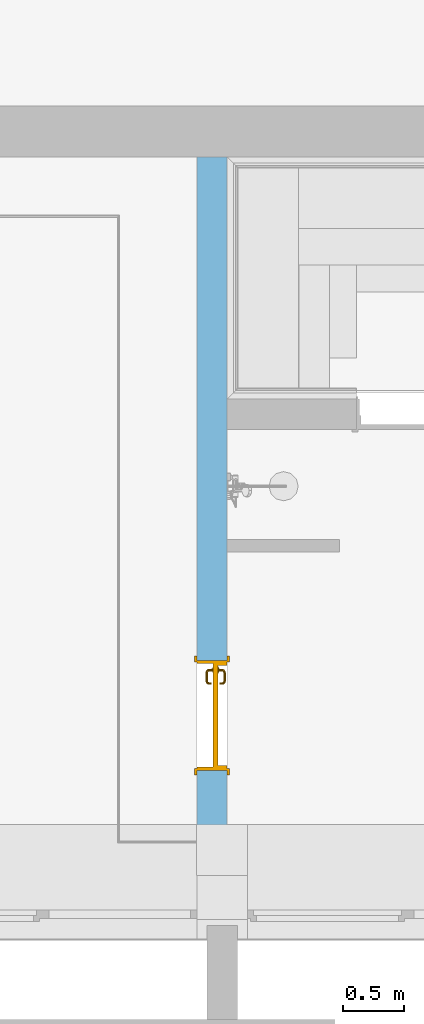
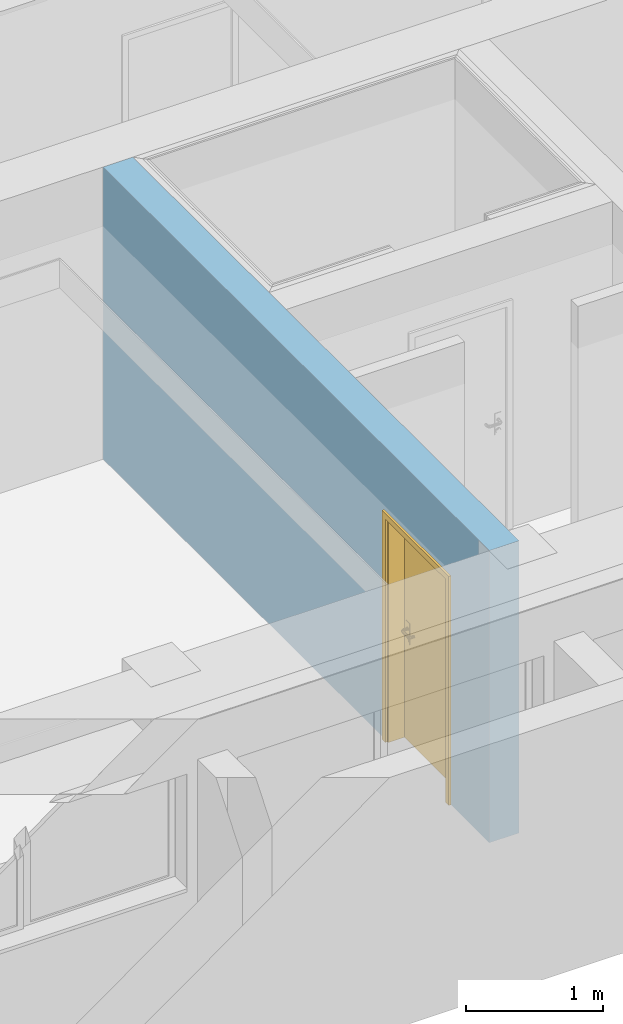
# One storey, part 40 of 127: 1 door, 1 opening, plus 1 element that does not belong to this part.
"""IFC2X3 building model written with IfcOpenShell, lengths in millimetres."""

from ifc_helpers import new_model, entity, si_unit, converted_unit, derived_unit, money_unit, direction, frame, origin_with_axes, origin_2d_with_axis, place, context, subcontext, project, spatial, polyline, rectangle, outline, extrude, open_shell, faceted_brep, surface_model, material, layer, layer_set, layer_usage, type_object, element, fill, save


model = new_model("IFC2X3")

# Units and contexts
model_context = context("Model", 3, precision=1e-05, world=origin_with_axes(), true_north=direction((0.0, 1.0)))
body_context = subcontext(model_context, "Body", "Model", "MODEL_VIEW")
ifc_project = project(units=[si_unit("LENGTHUNIT", "METRE", prefix="MILLI"), si_unit("AREAUNIT", "SQUARE_METRE"), si_unit("VOLUMEUNIT", "CUBIC_METRE"), converted_unit("PLANEANGLEUNIT", "DEGREE", entity("IfcPlaneAngleMeasure", 0.0174532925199), si_unit("PLANEANGLEUNIT", "RADIAN"), dimensions=[0, 0, 0, 0, 0, 0, 0]), si_unit("SOLIDANGLEUNIT", "STERADIAN"), money_unit("EUR"), converted_unit("TIMEUNIT", "Year", entity("IfcTimeMeasure", 31556926.0), si_unit("TIMEUNIT", "SECOND"), dimensions=[0, 0, 1, 0, 0, 0, 0]), si_unit("MASSUNIT", "GRAM", prefix="KILO"), si_unit("THERMODYNAMICTEMPERATUREUNIT", "DEGREE_CELSIUS"), si_unit("LUMINOUSINTENSITYUNIT", "LUMEN"), si_unit("ENERGYUNIT", "JOULE", prefix="MEGA"), derived_unit("THERMALCONDUCTANCEUNIT", [(si_unit("POWERUNIT", "WATT"), 1), (si_unit("LENGTHUNIT", "METRE"), -1), (si_unit("THERMODYNAMICTEMPERATUREUNIT", "KELVIN"), -1)]), derived_unit("SPECIFICHEATCAPACITYUNIT", [(si_unit("ENERGYUNIT", "JOULE"), 1), (si_unit("MASSUNIT", "GRAM", prefix="KILO"), -1), (si_unit("THERMODYNAMICTEMPERATUREUNIT", "KELVIN"), -1)]), derived_unit("MASSDENSITYUNIT", [(si_unit("MASSUNIT", "GRAM", prefix="KILO"), 1), (si_unit("VOLUMEUNIT", "CUBIC_METRE"), -1)])], contexts=[model_context])

# Site, building, storey
site_placement = place(None, origin_with_axes())
site = spatial("IfcSite", under=ifc_project, at=site_placement, Name="Site", CompositionType="ELEMENT")
building_placement = place(site_placement, origin_with_axes())
building = spatial("IfcBuilding", under=site, at=building_placement, Name="Building", CompositionType="ELEMENT")
storey_placement = place(building_placement, origin_with_axes())
storey = spatial("IfcBuildingStorey", under=building, at=storey_placement, Name="1 KORRUS", CompositionType="ELEMENT", Elevation=0.0)

# Wall, opening, door
ifc_material = material(Name="Kivi -Ol.Olev Konstruktsioon")
ifc_layer = layer(ifc_material, 250.0, ventilated="UNKNOWN")
ifc_layer_set = layer_set([ifc_layer], Name="ol.olev ss 250")
ifc_layer_usage = layer_usage(ifc_layer_set, "AXIS2", "POSITIVE", 0.0)
wall_type = type_object("IfcWallType", Name="SW - 036", PredefinedType="NOTDEFINED")
wall_placement = place(storey_placement, frame((24738.1366535, 65636.3690561, 0.0), z_axis=(0.0, 0.0, 1.0), x_axis=(0.0, -1.0, 0.0)))
wall = element("IfcWallStandardCase", 1, at=wall_placement, inside=storey, type_object=wall_type, material=ifc_layer_usage, Name="ol.olev ss 250", context=body_context, shape_type="SweptSolid", body=[
    extrude(outline(polyline([(420.0, 0.0), (6048.6949808, 0.0), (6048.6949808, 250.0), (420.0, 250.0), (420.0, 0.0)])), origin_with_axes(), (0.0, 0.0, 1.0), 2600.0),
])
opening_placement = place(wall_placement, frame((5002.78321765, 0.0, 0.0), z_axis=(0.0, 0.0, 1.0), x_axis=(1.0, 0.0, 0.0)))
opening = element("IfcOpeningElement", 2, at=opening_placement, cuts=wall, Name="Siseuks * Door 22", context=body_context, shape_type="SweptSolid", body=[
    extrude(rectangle(XDim=900.0, YDim=2000.0, at=origin_2d_with_axis()), frame((0.0, -250.0, 1000.0), z_axis=(0.0, -1.0, 0.0), x_axis=(1.0, 0.0, 0.0)), (0.0, 0.0, -1.0), 750.0),
    extrude(rectangle(XDim=974.0, YDim=2037.0, at=origin_2d_with_axis()), frame((0.0, 0.0, 1018.5), z_axis=(0.0, -1.0, 0.0), x_axis=(1.0, 0.0, 0.0)), (0.0, 0.0, 1.0), 250.0),
    extrude(rectangle(XDim=974.0, YDim=2037.0, at=origin_2d_with_axis()), frame((0.0, 250.0, 1018.5), z_axis=(0.0, 1.0, 0.0), x_axis=(1.0, 0.0, 0.0)), (0.0, 0.0, 1.0), 250.0),
])
door_style = type_object("IfcDoorStyle", Name="SU-A108A   900×2\xa0000", ConstructionType="NOTDEFINED", OperationType="SINGLE_SWING_LEFT", ParameterTakesPrecedence=False, Sizeable=False)
door_placement = place(opening_placement, frame((450.0, 0.0, 0.0), z_axis=(0.0, 0.0, 1.0), x_axis=(-1.0, 0.0, 0.0)))
door = element("IfcDoor", 3, at=door_placement, inside=storey, type_object=door_style, Name="Siseuks * Door 22", OverallHeight=2000.0, OverallWidth=900.0, context=body_context, shape_type="SurfaceModel", body=[
    faceted_brep([(900.0, -135.0, 0.0), (875.0, -135.0, 0.0), (875.0, 0.0, 0.0), (900.0, 0.0, 0.0), (900.0, -135.0, 2000.0), (875.0, -135.0, 1975.0), (875.0, 0.0, 1975.0), (900.0, 0.0, 2000.0)], [[[0, 1, 2, 3]], [[0, 4, 5, 1]], [[1, 5, 6, 2]], [[3, 2, 6, 7]], [[4, 0, 3, 7]], [[5, 4, 7, 6]]]),
    faceted_brep([(0.0, -135.0, 2000.0), (24.9999999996, -135.0, 1975.0), (24.9999999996, 0.0, 1975.0), (0.0, 0.0, 2000.0), (0.0, -135.0, 0.0), (24.9999999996, -135.0, 0.0), (24.9999999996, 0.0, 0.0), (0.0, 0.0, 0.0)], [[[0, 1, 2, 3]], [[0, 4, 5, 1]], [[1, 5, 6, 2]], [[3, 2, 6, 7]], [[4, 0, 3, 7]], [[5, 4, 7, 6]]]),
    faceted_brep([(875.0, -135.0, 1975.0), (24.9999999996, -135.0, 1975.0), (24.9999999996, 0.0, 1975.0), (875.0, 0.0, 1975.0), (900.0, -135.0, 2000.0), (0.0, -135.0, 2000.0), (0.0, 0.0, 2000.0), (900.0, 0.0, 2000.0)], [[[0, 1, 2, 3]], [[0, 4, 5, 1]], [[1, 5, 6, 2]], [[3, 2, 6, 7]], [[4, 0, 3, 7]], [[5, 4, 7, 6]]]),
    faceted_brep([(937.0, 19.0, 0.0), (937.0, 0.0, 0.0), (887.0, 0.0, 0.0), (887.0, 19.0, 0.0), (937.0, 19.0, 2037.0), (937.0, 0.0, 2037.0), (887.0, 0.0, 1987.0), (887.0, 19.0, 1987.0)], [[[0, 1, 2, 3]], [[4, 5, 1, 0]], [[1, 5, 6, 2]], [[3, 2, 6, 7]], [[0, 3, 7, 4]], [[7, 6, 5, 4]]]),
    faceted_brep([(-37.0000000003, 19.0, 2037.0), (-37.0000000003, 0.0, 2037.0), (12.9999999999, 0.0, 1987.0), (12.9999999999, 19.0, 1987.0), (-37.0000000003, 19.0, 0.0), (-37.0000000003, 0.0, 0.0), (12.9999999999, 0.0, 0.0), (12.9999999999, 19.0, 0.0)], [[[0, 1, 2, 3]], [[4, 5, 1, 0]], [[1, 5, 6, 2]], [[3, 2, 6, 7]], [[0, 3, 7, 4]], [[7, 6, 5, 4]]]),
    faceted_brep([(937.0, 19.0, 2037.0), (937.0, 0.0, 2037.0), (887.0, 0.0, 1987.0), (887.0, 19.0, 1987.0), (-37.0000000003, 19.0, 2037.0), (-37.0000000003, 0.0, 2037.0), (12.9999999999, 0.0, 1987.0), (12.9999999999, 19.0, 1987.0)], [[[0, 1, 2, 3]], [[4, 5, 1, 0]], [[1, 5, 6, 2]], [[3, 2, 6, 7]], [[0, 3, 7, 4]], [[7, 6, 5, 4]]]),
    faceted_brep([(937.0, -269.0, 0.0), (887.0, -269.0, 0.0), (887.0, -250.0, 0.0), (937.0, -250.0, 0.0), (937.0, -269.0, 2037.0), (887.0, -269.0, 1987.0), (887.0, -250.0, 1987.0), (937.0, -250.0, 2037.0)], [[[0, 1, 2, 3]], [[0, 4, 5, 1]], [[1, 5, 6, 2]], [[3, 2, 6, 7]], [[4, 0, 3, 7]], [[5, 4, 7, 6]]]),
    faceted_brep([(-37.0000000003, -269.0, 2037.0), (12.9999999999, -269.0, 1987.0), (12.9999999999, -250.0, 1987.0), (-37.0000000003, -250.0, 2037.0), (-37.0000000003, -269.0, 0.0), (12.9999999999, -269.0, 0.0), (12.9999999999, -250.0, 0.0), (-37.0000000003, -250.0, 0.0)], [[[0, 1, 2, 3]], [[0, 4, 5, 1]], [[1, 5, 6, 2]], [[3, 2, 6, 7]], [[4, 0, 3, 7]], [[5, 4, 7, 6]]]),
    faceted_brep([(937.0, -269.0, 2037.0), (887.0, -269.0, 1987.0), (887.0, -250.0, 1987.0), (937.0, -250.0, 2037.0), (-37.0000000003, -269.0, 2037.0), (12.9999999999, -269.0, 1987.0), (12.9999999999, -250.0, 1987.0), (-37.0000000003, -250.0, 2037.0)], [[[0, 1, 2, 3]], [[0, 4, 5, 1]], [[1, 5, 6, 2]], [[3, 2, 6, 7]], [[4, 0, 3, 7]], [[5, 4, 7, 6]]]),
    faceted_brep([(860.0, -175.0, 0.0), (860.0, -250.0, 0.0), (860.0, -250.0, 1960.0), (860.0, -175.0, 1960.0), (871.999999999, -175.0, 0.0), (871.999999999, -135.0, 0.0), (900.0, -135.0, 0.0), (900.0, -250.0, 0.0), (900.0, -250.0, 1960.0), (871.999999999, -175.0, 1960.0), (900.0, -135.0, 1960.0), (871.999999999, -135.0, 1960.0)], [[[0, 1, 2, 3]], [[4, 5, 6, 7, 1, 0]], [[1, 7, 8, 2]], [[9, 3, 2, 8, 10, 11]], [[9, 4, 0, 3]], [[11, 5, 4, 9]], [[11, 10, 6, 5]], [[6, 10, 8, 7]]]),
    faceted_brep([(28.0000000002, -175.0, 1960.0), (28.0000000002, -135.0, 1960.0), (0.0, -135.0, 1960.0), (0.0, -250.0, 1960.0), (40.0, -250.0, 1960.0), (40.0, -175.0, 1960.0), (28.0000000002, -175.0, 0.0), (28.0000000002, -135.0, 0.0), (0.0, -135.0, 0.0), (0.0, -250.0, 0.0), (40.0, -250.0, 0.0), (40.0, -175.0, 0.0)], [[[0, 1, 2, 3, 4, 5]], [[0, 6, 7, 1]], [[7, 8, 2, 1]], [[2, 8, 9, 3]], [[3, 9, 10, 4]], [[5, 4, 10, 11]], [[5, 11, 6, 0]], [[6, 11, 10, 9, 8, 7]]]),
    faceted_brep([(871.999999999, -135.0, 1972.0), (28.0000000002, -135.0, 1972.0), (28.0000000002, -135.0, 1960.0), (0.0, -135.0, 1960.0), (0.0, -135.0, 2000.0), (900.0, -135.0, 2000.0), (900.0, -135.0, 1960.0), (871.999999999, -135.0, 1960.0), (871.999999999, -175.0, 1972.0), (28.0000000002, -175.0, 1972.0), (28.0000000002, -175.0, 1960.0), (40.0, -175.0, 1960.0), (40.0, -250.0, 1960.0), (0.0, -250.0, 1960.0), (0.0, -250.0, 2000.0), (900.0, -250.0, 2000.0), (900.0, -250.0, 1960.0), (871.999999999, -175.0, 1960.0), (860.0, -250.0, 1960.0), (860.0, -175.0, 1960.0)], [[[0, 1, 2, 3, 4, 5, 6, 7]], [[0, 8, 9, 1]], [[1, 9, 10, 2]], [[10, 11, 12, 13, 3, 2]], [[4, 3, 13, 14]], [[5, 4, 14, 15]], [[6, 5, 15, 16]], [[17, 7, 6, 16, 18, 19]], [[7, 17, 8, 0]], [[10, 9, 8, 17, 19, 11]], [[19, 18, 12, 11]], [[12, 18, 16, 15, 14, 13]]]),
    faceted_brep([(850.5, -175.0, 1060.0), (793.5, -175.0, 1060.0), (793.5, -178.0, 1060.0), (850.5, -178.0, 1060.0), (850.5, -175.0, 870.0), (793.5, -175.0, 870.0), (793.5, -178.0, 870.0), (850.5, -178.0, 870.0)], [[[0, 1, 2, 3]], [[0, 4, 5, 1]], [[1, 5, 6, 2]], [[3, 2, 6, 7]], [[4, 0, 3, 7]], [[5, 4, 7, 6]]]),
    surface_model("IfcShellBasedSurfaceModel", [(812.0, -188.0, 1000.0), (814.928932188, -188.0, 992.928932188), (814.928932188, -207.303560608, 992.928932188), (812.0, -207.015085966, 1000.0), (822.0, -188.0, 990.0), (822.0, -208.0, 990.0), (813.816790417, -212.894674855, 992.928932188), (811.057796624, -211.751862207, 1000.0), (814.928932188, -188.0, 1007.07106781), (814.928932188, -207.303560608, 1007.07106781), (829.071067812, -188.0, 992.928932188), (829.071067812, -208.696439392, 992.928932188), (820.47759065, -215.653668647, 990.0), (811.044179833, -217.044179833, 992.928932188), (808.932537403, -214.932537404, 1000.0), (813.816790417, -212.894674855, 1007.07106781), (822.0, -188.0, 1010.0), (822.0, -208.0, 1010.0), (831.999999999, -188.0, 1000.0), (831.999999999, -208.984914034, 1000.0), (827.138390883, -218.41266244, 992.928932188), (816.142135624, -222.142135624, 990.0), (806.894674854, -219.816790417, 992.928932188), (805.751862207, -217.057796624, 1000.0), (811.044179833, -217.044179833, 1007.07106781), (820.47759065, -215.653668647, 1010.0), (829.071067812, -188.0, 1007.07106781), (829.071067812, -208.696439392, 1007.07106781), (829.897384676, -219.555475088, 1000.0), (821.240091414, -227.240091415, 992.928932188), (809.653668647, -226.47759065, 990.0), (801.303560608, -220.928932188, 992.928932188), (801.015085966, -218.0, 1000.0), (806.894674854, -219.816790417, 1007.07106781), (816.142135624, -222.142135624, 1010.0), (827.138390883, -218.41266244, 1007.07106781), (823.351733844, -229.351733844, 1000.0), (812.41266244, -233.138390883, 992.928932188), (802.0, -228.0, 990.0), (732.696439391, -220.928932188, 992.928932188), (732.984914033, -218.0, 1000.0), (801.303560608, -220.928932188, 1007.07106781), (809.653668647, -226.47759065, 1010.0), (821.240091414, -227.240091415, 1007.07106781), (813.555475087, -235.897384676, 1000.0), (802.696439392, -235.071067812, 992.928932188), (732.0, -228.0, 990.0), (727.105325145, -219.816790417, 992.928932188), (728.248137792, -217.057796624, 1000.0), (732.696439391, -220.928932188, 1007.07106781), (802.0, -228.0, 1010.0), (812.41266244, -233.138390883, 1007.07106781), (802.984914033, -238.0, 1000.0), (731.303560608, -235.071067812, 992.928932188), (724.346331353, -226.47759065, 990.0), (722.955820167, -217.044179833, 992.928932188), (725.067462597, -214.932537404, 1000.0), (727.105325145, -219.816790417, 1007.07106781), (732.0, -228.0, 1010.0), (802.696439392, -235.071067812, 1007.07106781), (731.015085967, -238.0, 1000.0), (721.58733756, -233.138390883, 992.928932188), (717.857864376, -222.142135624, 990.0), (720.183209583, -212.894674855, 992.928932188), (722.942203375, -211.751862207, 1000.0), (722.955820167, -217.044179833, 1007.07106781), (724.346331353, -226.47759065, 1010.0), (731.303560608, -235.071067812, 1007.07106781), (720.444524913, -235.897384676, 1000.0), (712.759908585, -227.240091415, 992.928932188), (713.52240935, -215.653668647, 990.0), (719.071067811, -207.303560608, 992.928932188), (722.0, -207.015085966, 1000.0), (720.183209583, -212.894674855, 1007.07106781), (717.857864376, -222.142135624, 1010.0), (721.58733756, -233.138390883, 1007.07106781), (710.648266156, -229.351733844, 1000.0), (706.861609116, -218.41266244, 992.928932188), (712.0, -208.0, 990.0), (719.071067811, -188.0, 992.928932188), (722.0, -188.0, 1000.0), (719.071067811, -207.303560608, 1007.07106781), (713.52240935, -215.653668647, 1010.0), (712.759908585, -227.240091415, 1007.07106781), (704.102615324, -219.555475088, 1000.0), (704.928932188, -208.696439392, 992.928932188), (712.0, -188.0, 990.0), (704.928932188, -188.0, 992.928932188), (702.0, -188.0, 1000.0), (704.928932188, -188.0, 1007.07106781), (712.0, -188.0, 1010.0), (719.071067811, -188.0, 1007.07106781), (712.0, -208.0, 1010.0), (706.861609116, -218.41266244, 1007.07106781), (702.0, -208.984914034, 1000.0), (704.928932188, -208.696439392, 1007.07106781)], [open_shell([[[0, 1, 2, 3]], [[1, 4, 5, 2]], [[3, 2, 6, 7]], [[8, 0, 3, 9]], [[4, 10, 11, 5]], [[2, 5, 12, 6]], [[7, 6, 13, 14]], [[9, 3, 7, 15]], [[16, 8, 9, 17]], [[10, 18, 19, 11]], [[5, 11, 20, 12]], [[6, 12, 21, 13]], [[14, 13, 22, 23]], [[15, 7, 14, 24]], [[17, 9, 15, 25]], [[26, 16, 17, 27]], [[18, 26, 27, 19]], [[11, 19, 28, 20]], [[12, 20, 29, 21]], [[13, 21, 30, 22]], [[23, 22, 31, 32]], [[24, 14, 23, 33]], [[25, 15, 24, 34]], [[27, 17, 25, 35]], [[19, 27, 35, 28]], [[20, 28, 36, 29]], [[21, 29, 37, 30]], [[22, 30, 38, 31]], [[32, 31, 39, 40]], [[33, 23, 32, 41]], [[34, 24, 33, 42]], [[35, 25, 34, 43]], [[28, 35, 43, 36]], [[29, 36, 44, 37]], [[30, 37, 45, 38]], [[31, 38, 46, 39]], [[40, 39, 47, 48]], [[41, 32, 40, 49]], [[42, 33, 41, 50]], [[43, 34, 42, 51]], [[36, 43, 51, 44]], [[37, 44, 52, 45]], [[38, 45, 53, 46]], [[39, 46, 54, 47]], [[48, 47, 55, 56]], [[49, 40, 48, 57]], [[50, 41, 49, 58]], [[51, 42, 50, 59]], [[44, 51, 59, 52]], [[45, 52, 60, 53]], [[46, 53, 61, 54]], [[47, 54, 62, 55]], [[56, 55, 63, 64]], [[57, 48, 56, 65]], [[58, 49, 57, 66]], [[59, 50, 58, 67]], [[52, 59, 67, 60]], [[53, 60, 68, 61]], [[54, 61, 69, 62]], [[55, 62, 70, 63]], [[64, 63, 71, 72]], [[65, 56, 64, 73]], [[66, 57, 65, 74]], [[67, 58, 66, 75]], [[60, 67, 75, 68]], [[61, 68, 76, 69]], [[62, 69, 77, 70]], [[63, 70, 78, 71]], [[72, 71, 79, 80]], [[73, 64, 72, 81]], [[74, 65, 73, 82]], [[75, 66, 74, 83]], [[68, 75, 83, 76]], [[69, 76, 84, 77]], [[70, 77, 85, 78]], [[71, 78, 86, 79]], [[80, 79, 86, 87, 88, 89, 90, 91]], [[81, 72, 80, 91]], [[82, 73, 81, 92]], [[83, 74, 82, 93]], [[76, 83, 93, 84]], [[77, 84, 94, 85]], [[78, 85, 87, 86]], [[85, 94, 88, 87]], [[94, 95, 89, 88]], [[95, 92, 90, 89]], [[92, 81, 91, 90]], [[93, 82, 92, 95]], [[84, 93, 95, 94]]])]),
    faceted_brep([(811.607695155, -188.0, 994.0), (809.999999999, -188.0, 1000.0), (809.0, -178.0, 1000.0), (810.74166975, -178.0, 993.5), (816.0, -188.0, 989.607695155), (822.0, -188.0, 988.0), (828.0, -188.0, 989.607695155), (832.392304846, -188.0, 994.0), (834.0, -188.0, 1000.0), (832.392304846, -188.0, 1006.0), (828.0, -188.0, 1010.39230485), (822.0, -188.0, 1012.0), (816.0, -188.0, 1010.39230485), (811.607695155, -188.0, 1006.0), (810.74166975, -178.0, 1006.5), (815.5, -178.0, 1011.25833025), (822.0, -178.0, 1013.0), (828.5, -178.0, 1011.25833025), (833.258330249, -178.0, 1006.5), (835.0, -178.0, 1000.0), (833.258330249, -178.0, 993.5), (828.5, -178.0, 988.741669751), (822.0, -178.0, 987.0), (815.5, -178.0, 988.741669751)], [[[0, 1, 2, 3]], [[1, 0, 4, 5, 6, 7, 8, 9, 10, 11, 12, 13]], [[1, 13, 14, 2]], [[2, 14, 15, 16, 17, 18, 19, 20, 21, 22, 23, 3]], [[4, 0, 3, 23]], [[5, 4, 23, 22]], [[6, 5, 22, 21]], [[7, 6, 21, 20]], [[8, 7, 20, 19]], [[9, 8, 19, 18]], [[10, 9, 18, 17]], [[11, 10, 17, 16]], [[12, 11, 16, 15]], [[13, 12, 15, 14]]]),
    faceted_brep([(804.679491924, -182.0, 895.0), (802.0, -182.0, 905.0), (800.0, -178.0, 905.0), (802.947441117, -178.0, 894.0), (812.0, -182.0, 887.679491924), (822.0, -182.0, 885.0), (831.999999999, -182.0, 887.679491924), (839.320508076, -182.0, 895.0), (842.0, -182.0, 905.0), (839.320508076, -182.0, 915.0), (831.999999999, -182.0, 922.320508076), (822.0, -182.0, 925.0), (812.0, -182.0, 922.320508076), (804.679491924, -182.0, 915.0), (802.947441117, -178.0, 916.0), (811.0, -178.0, 924.052558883), (822.0, -178.0, 927.0), (833.0, -178.0, 924.052558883), (841.052558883, -178.0, 916.0), (844.0, -178.0, 905.0), (841.052558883, -178.0, 894.0), (833.0, -178.0, 885.947441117), (822.0, -178.0, 883.0), (811.0, -178.0, 885.947441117)], [[[0, 1, 2, 3]], [[1, 0, 4, 5, 6, 7, 8, 9, 10, 11, 12, 13]], [[1, 13, 14, 2]], [[2, 14, 15, 16, 17, 18, 19, 20, 21, 22, 23, 3]], [[4, 0, 3, 23]], [[5, 4, 23, 22]], [[6, 5, 22, 21]], [[7, 6, 21, 20]], [[8, 7, 20, 19]], [[9, 8, 19, 18]], [[10, 9, 18, 17]], [[11, 10, 17, 16]], [[12, 11, 16, 15]], [[13, 12, 15, 14]]]),
    faceted_brep([(817.050252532, -184.0, 909.050252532), (815.0, -184.0, 914.0), (813.999999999, -182.0, 914.0), (816.343145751, -182.0, 908.343145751), (822.0, -184.0, 907.0), (826.949747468, -184.0, 909.050252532), (829.0, -184.0, 914.0), (826.949747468, -184.0, 918.949747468), (822.0, -184.0, 921.0), (817.050252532, -184.0, 918.949747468), (816.343145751, -182.0, 919.656854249), (822.0, -182.0, 922.0), (827.65685425, -182.0, 919.656854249), (830.0, -182.0, 914.0), (827.65685425, -182.0, 908.343145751), (822.0, -182.0, 906.0)], [[[0, 1, 2, 3]], [[1, 0, 4, 5, 6, 7, 8, 9]], [[1, 9, 10, 2]], [[2, 10, 11, 12, 13, 14, 15, 3]], [[4, 0, 3, 15]], [[5, 4, 15, 14]], [[6, 5, 14, 13]], [[7, 6, 13, 12]], [[8, 7, 12, 11]], [[9, 8, 11, 10]]]),
    faceted_brep([(850.5, -135.0, 1060.0), (850.5, -132.0, 1060.0), (793.5, -132.0, 1060.0), (793.5, -135.0, 1060.0), (850.5, -135.0, 870.0), (850.5, -132.0, 870.0), (793.5, -132.0, 870.0), (793.5, -135.0, 870.0)], [[[0, 1, 2, 3]], [[4, 5, 1, 0]], [[1, 5, 6, 2]], [[3, 2, 6, 7]], [[0, 3, 7, 4]], [[7, 6, 5, 4]]]),
    surface_model("IfcShellBasedSurfaceModel", [(812.0, -122.0, 1000.0), (812.0, -102.984914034, 1000.0), (814.928932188, -102.696439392, 992.928932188), (814.928932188, -122.0, 992.928932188), (814.928932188, -122.0, 1007.07106781), (814.928932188, -102.696439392, 1007.07106781), (811.057796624, -98.248137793, 1000.0), (813.816790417, -97.1053251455, 992.928932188), (822.0, -102.0, 990.0), (822.0, -122.0, 990.0), (822.0, -122.0, 1010.0), (822.0, -102.0, 1010.0), (813.816790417, -97.1053251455, 1007.07106781), (808.932537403, -95.0674625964, 1000.0), (811.044179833, -92.9558201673, 992.928932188), (820.47759065, -94.3463313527, 990.0), (829.071067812, -101.303560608, 992.928932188), (829.071067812, -122.0, 992.928932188), (829.071067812, -122.0, 1007.07106781), (829.071067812, -101.303560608, 1007.07106781), (820.47759065, -94.3463313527, 1010.0), (811.044179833, -92.9558201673, 1007.07106781), (805.751862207, -92.9422033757, 1000.0), (806.894674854, -90.183209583, 992.928932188), (816.142135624, -87.8578643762, 990.0), (827.138390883, -91.5873375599, 992.928932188), (831.999999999, -101.015085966, 1000.0), (831.999999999, -122.0, 1000.0), (827.138390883, -91.5873375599, 1007.07106781), (816.142135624, -87.8578643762, 1010.0), (806.894674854, -90.183209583, 1007.07106781), (801.015085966, -92.0, 1000.0), (801.303560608, -89.0710678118, 992.928932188), (809.653668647, -83.5224093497, 990.0), (821.240091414, -82.7599085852, 992.928932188), (829.897384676, -90.4445249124, 1000.0), (821.240091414, -82.7599085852, 1007.07106781), (809.653668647, -83.5224093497, 1010.0), (801.303560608, -89.0710678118, 1007.07106781), (732.984914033, -92.0, 1000.0), (732.696439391, -89.0710678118, 992.928932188), (802.0, -82.0, 990.0), (812.41266244, -76.8616091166, 992.928932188), (823.351733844, -80.6482661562, 1000.0), (812.41266244, -76.8616091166, 1007.07106781), (802.0, -82.0, 1010.0), (732.696439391, -89.0710678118, 1007.07106781), (728.248137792, -92.9422033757, 1000.0), (727.105325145, -90.183209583, 992.928932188), (732.0, -82.0, 990.0), (802.696439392, -74.9289321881, 992.928932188), (813.555475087, -74.1026153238, 1000.0), (802.696439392, -74.9289321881, 1007.07106781), (732.0, -82.0, 1010.0), (727.105325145, -90.183209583, 1007.07106781), (725.067462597, -95.0674625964, 1000.0), (722.955820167, -92.9558201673, 992.928932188), (724.346331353, -83.5224093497, 990.0), (731.303560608, -74.9289321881, 992.928932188), (802.984914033, -72.0, 1000.0), (731.303560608, -74.9289321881, 1007.07106781), (724.346331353, -83.5224093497, 1010.0), (722.955820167, -92.9558201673, 1007.07106781), (722.942203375, -98.248137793, 1000.0), (720.183209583, -97.1053251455, 992.928932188), (717.857864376, -87.8578643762, 990.0), (721.58733756, -76.8616091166, 992.928932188), (731.015085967, -72.0, 1000.0), (721.58733756, -76.8616091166, 1007.07106781), (717.857864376, -87.8578643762, 1010.0), (720.183209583, -97.1053251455, 1007.07106781), (722.0, -102.984914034, 1000.0), (719.071067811, -102.696439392, 992.928932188), (713.52240935, -94.3463313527, 990.0), (712.759908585, -82.7599085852, 992.928932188), (720.444524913, -74.1026153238, 1000.0), (712.759908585, -82.7599085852, 1007.07106781), (713.52240935, -94.3463313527, 1010.0), (719.071067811, -102.696439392, 1007.07106781), (722.0, -122.0, 1000.0), (719.071067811, -122.0, 992.928932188), (712.0, -102.0, 990.0), (706.861609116, -91.5873375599, 992.928932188), (710.648266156, -80.6482661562, 1000.0), (706.861609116, -91.5873375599, 1007.07106781), (712.0, -102.0, 1010.0), (719.071067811, -122.0, 1007.07106781), (712.0, -122.0, 1010.0), (704.928932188, -122.0, 1007.07106781), (702.0, -122.0, 1000.0), (704.928932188, -122.0, 992.928932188), (712.0, -122.0, 990.0), (704.928932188, -101.303560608, 992.928932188), (704.102615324, -90.4445249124, 1000.0), (704.928932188, -101.303560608, 1007.07106781), (702.0, -101.015085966, 1000.0)], [open_shell([[[0, 1, 2, 3]], [[4, 5, 1, 0]], [[1, 6, 7, 2]], [[3, 2, 8, 9]], [[10, 11, 5, 4]], [[5, 12, 6, 1]], [[6, 13, 14, 7]], [[2, 7, 15, 8]], [[9, 8, 16, 17]], [[18, 19, 11, 10]], [[11, 20, 12, 5]], [[12, 21, 13, 6]], [[13, 22, 23, 14]], [[7, 14, 24, 15]], [[8, 15, 25, 16]], [[17, 16, 26, 27]], [[27, 26, 19, 18]], [[19, 28, 20, 11]], [[20, 29, 21, 12]], [[21, 30, 22, 13]], [[22, 31, 32, 23]], [[14, 23, 33, 24]], [[15, 24, 34, 25]], [[16, 25, 35, 26]], [[26, 35, 28, 19]], [[28, 36, 29, 20]], [[29, 37, 30, 21]], [[30, 38, 31, 22]], [[31, 39, 40, 32]], [[23, 32, 41, 33]], [[24, 33, 42, 34]], [[25, 34, 43, 35]], [[35, 43, 36, 28]], [[36, 44, 37, 29]], [[37, 45, 38, 30]], [[38, 46, 39, 31]], [[39, 47, 48, 40]], [[32, 40, 49, 41]], [[33, 41, 50, 42]], [[34, 42, 51, 43]], [[43, 51, 44, 36]], [[44, 52, 45, 37]], [[45, 53, 46, 38]], [[46, 54, 47, 39]], [[47, 55, 56, 48]], [[40, 48, 57, 49]], [[41, 49, 58, 50]], [[42, 50, 59, 51]], [[51, 59, 52, 44]], [[52, 60, 53, 45]], [[53, 61, 54, 46]], [[54, 62, 55, 47]], [[55, 63, 64, 56]], [[48, 56, 65, 57]], [[49, 57, 66, 58]], [[50, 58, 67, 59]], [[59, 67, 60, 52]], [[60, 68, 61, 53]], [[61, 69, 62, 54]], [[62, 70, 63, 55]], [[63, 71, 72, 64]], [[56, 64, 73, 65]], [[57, 65, 74, 66]], [[58, 66, 75, 67]], [[67, 75, 68, 60]], [[68, 76, 69, 61]], [[69, 77, 70, 62]], [[70, 78, 71, 63]], [[71, 79, 80, 72]], [[64, 72, 81, 73]], [[65, 73, 82, 74]], [[66, 74, 83, 75]], [[75, 83, 76, 68]], [[76, 84, 77, 69]], [[77, 85, 78, 70]], [[78, 86, 79, 71]], [[79, 86, 87, 88, 89, 90, 91, 80]], [[72, 80, 91, 81]], [[73, 81, 92, 82]], [[74, 82, 93, 83]], [[83, 93, 84, 76]], [[84, 94, 85, 77]], [[85, 87, 86, 78]], [[94, 88, 87, 85]], [[95, 89, 88, 94]], [[92, 90, 89, 95]], [[81, 91, 90, 92]], [[82, 92, 95, 93]], [[93, 95, 94, 84]]])]),
    faceted_brep([(811.607695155, -122.0, 994.0), (810.74166975, -132.0, 993.5), (809.0, -132.0, 1000.0), (809.999999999, -122.0, 1000.0), (816.0, -122.0, 989.607695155), (815.5, -132.0, 988.741669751), (822.0, -132.0, 987.0), (828.5, -132.0, 988.741669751), (833.258330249, -132.0, 993.5), (835.0, -132.0, 1000.0), (833.258330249, -132.0, 1006.5), (828.5, -132.0, 1011.25833025), (822.0, -132.0, 1013.0), (815.5, -132.0, 1011.25833025), (810.74166975, -132.0, 1006.5), (811.607695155, -122.0, 1006.0), (816.0, -122.0, 1010.39230485), (822.0, -122.0, 1012.0), (828.0, -122.0, 1010.39230485), (832.392304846, -122.0, 1006.0), (834.0, -122.0, 1000.0), (832.392304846, -122.0, 994.0), (828.0, -122.0, 989.607695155), (822.0, -122.0, 988.0)], [[[0, 1, 2, 3]], [[4, 5, 1, 0]], [[2, 1, 5, 6, 7, 8, 9, 10, 11, 12, 13, 14]], [[3, 2, 14, 15]], [[3, 15, 16, 17, 18, 19, 20, 21, 22, 23, 4, 0]], [[23, 6, 5, 4]], [[22, 7, 6, 23]], [[21, 8, 7, 22]], [[20, 9, 8, 21]], [[19, 10, 9, 20]], [[18, 11, 10, 19]], [[17, 12, 11, 18]], [[16, 13, 12, 17]], [[15, 14, 13, 16]]]),
    faceted_brep([(804.679491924, -128.0, 895.0), (802.947441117, -132.0, 894.0), (800.0, -132.0, 905.0), (802.0, -128.0, 905.0), (812.0, -128.0, 887.679491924), (811.0, -132.0, 885.947441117), (822.0, -132.0, 883.0), (833.0, -132.0, 885.947441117), (841.052558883, -132.0, 894.0), (844.0, -132.0, 905.0), (841.052558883, -132.0, 916.0), (833.0, -132.0, 924.052558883), (822.0, -132.0, 927.0), (811.0, -132.0, 924.052558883), (802.947441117, -132.0, 916.0), (804.679491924, -128.0, 915.0), (812.0, -128.0, 922.320508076), (822.0, -128.0, 925.0), (831.999999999, -128.0, 922.320508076), (839.320508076, -128.0, 915.0), (842.0, -128.0, 905.0), (839.320508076, -128.0, 895.0), (831.999999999, -128.0, 887.679491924), (822.0, -128.0, 885.0)], [[[0, 1, 2, 3]], [[4, 5, 1, 0]], [[2, 1, 5, 6, 7, 8, 9, 10, 11, 12, 13, 14]], [[3, 2, 14, 15]], [[3, 15, 16, 17, 18, 19, 20, 21, 22, 23, 4, 0]], [[23, 6, 5, 4]], [[22, 7, 6, 23]], [[21, 8, 7, 22]], [[20, 9, 8, 21]], [[19, 10, 9, 20]], [[18, 11, 10, 19]], [[17, 12, 11, 18]], [[16, 13, 12, 17]], [[15, 14, 13, 16]]]),
    faceted_brep([(817.050252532, -126.0, 909.050252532), (816.343145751, -128.0, 908.343145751), (813.999999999, -128.0, 914.0), (815.0, -126.0, 914.0), (822.0, -126.0, 907.0), (822.0, -128.0, 906.0), (827.65685425, -128.0, 908.343145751), (830.0, -128.0, 914.0), (827.65685425, -128.0, 919.656854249), (822.0, -128.0, 922.0), (816.343145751, -128.0, 919.656854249), (817.050252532, -126.0, 918.949747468), (822.0, -126.0, 921.0), (826.949747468, -126.0, 918.949747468), (829.0, -126.0, 914.0), (826.949747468, -126.0, 909.050252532)], [[[0, 1, 2, 3]], [[4, 5, 1, 0]], [[2, 1, 5, 6, 7, 8, 9, 10]], [[3, 2, 10, 11]], [[3, 11, 12, 13, 14, 15, 4, 0]], [[15, 6, 5, 4]], [[14, 7, 6, 15]], [[13, 8, 7, 14]], [[12, 9, 8, 13]], [[11, 10, 9, 12]]]),
    faceted_brep([(28.0000000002, -135.0, 0.0), (871.999999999, -135.0, 0.0), (871.999999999, -175.0, 0.0), (28.0000000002, -175.0, 0.0), (28.0000000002, -135.0, 1972.0), (871.999999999, -135.0, 1972.0), (871.999999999, -175.0, 1972.0), (28.0000000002, -175.0, 1972.0)], [[[0, 1, 2, 3]], [[0, 4, 5, 1]], [[1, 5, 6, 2]], [[3, 2, 6, 7]], [[4, 0, 3, 7]], [[5, 4, 7, 6]]]),
])
fill(opening, door)

save(model, "model.ifc")
